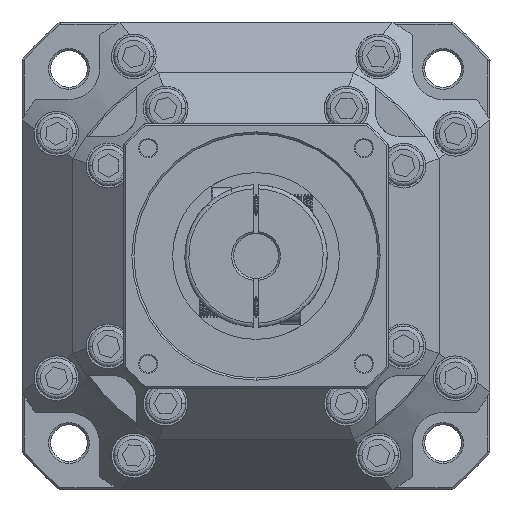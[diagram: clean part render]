
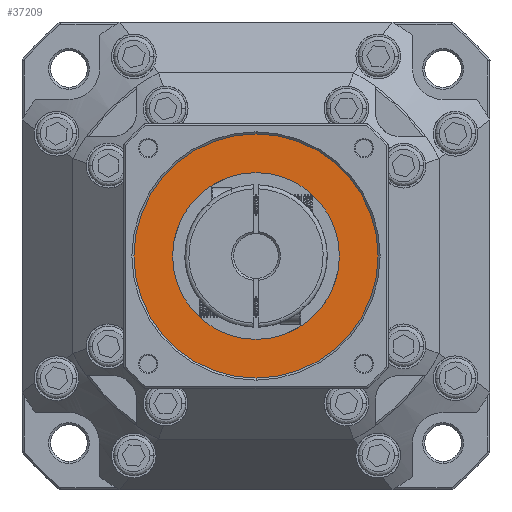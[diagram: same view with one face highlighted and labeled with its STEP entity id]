
A CAD part, front view. The second image highlights one B-rep face of the part: STEP entity #37209.
In plain terms, the highlighted planar face has unit normal (0, 1, 0).
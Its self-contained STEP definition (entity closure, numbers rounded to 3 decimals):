
#1240 = DIRECTION ( 'NONE',  ( 1., 0., 0. ) ) ;
#1306 = CARTESIAN_POINT ( 'NONE',  ( 0., -134.611, 0. ) ) ;
#3116 = CARTESIAN_POINT ( 'NONE',  ( 0., -134.611, 30. ) ) ;
#3349 = DIRECTION ( 'NONE',  ( 0., -1., 0. ) ) ;
#3427 = FACE_BOUND ( 'NONE', #37977, .T. ) ;
#7882 = VERTEX_POINT ( 'NONE', #3116 ) ;
#8398 = EDGE_CURVE ( 'NONE', #79903, #44071, #79397, .T. ) ;
#9768 = DIRECTION ( 'NONE',  ( 0., 0., -1. ) ) ;
#15743 = CIRCLE ( 'NONE', #104590, 30. ) ;
#17394 = ORIENTED_EDGE ( 'NONE', *, *, #32140, .T. ) ;
#20857 = VERTEX_POINT ( 'NONE', #70939 ) ;
#31250 = DIRECTION ( 'NONE',  ( 0., -1., 0. ) ) ;
#32140 = EDGE_CURVE ( 'NONE', #7882, #20857, #15743, .T. ) ;
#37209 = ADVANCED_FACE ( 'NONE', ( #3427, #67624 ), #42645, .F. ) ;
#37977 = EDGE_LOOP ( 'NONE', ( #82002, #44419 ) ) ;
#42645 = PLANE ( 'NONE',  #59402 ) ;
#44071 = VERTEX_POINT ( 'NONE', #70150 ) ;
#44092 = AXIS2_PLACEMENT_3D ( 'NONE', #53550, #3349, #61945 ) ;
#44419 = ORIENTED_EDGE ( 'NONE', *, *, #8398, .T. ) ;
#44462 = DIRECTION ( 'NONE',  ( 0., 1., 0. ) ) ;
#51431 = DIRECTION ( 'NONE',  ( 0., -1., 0. ) ) ;
#53550 = CARTESIAN_POINT ( 'NONE',  ( 0., -134.611, 0. ) ) ;
#59402 = AXIS2_PLACEMENT_3D ( 'NONE', #101529, #51431, #1240 ) ;
#59877 = DIRECTION ( 'NONE',  ( 0., 1., 0. ) ) ;
#61945 = DIRECTION ( 'NONE',  ( 0., 0., 1. ) ) ;
#67401 = EDGE_CURVE ( 'NONE', #20857, #7882, #71725, .T. ) ;
#67624 = FACE_OUTER_BOUND ( 'NONE', #74778, .T. ) ;
#69556 = CIRCLE ( 'NONE', #89689, 20.5 ) ;
#70150 = CARTESIAN_POINT ( 'NONE',  ( 0., -134.611, 20.5 ) ) ;
#70939 = CARTESIAN_POINT ( 'NONE',  ( 0., -134.611, -30. ) ) ;
#71725 = CIRCLE ( 'NONE', #81869, 30. ) ;
#74778 = EDGE_LOOP ( 'NONE', ( #100063, #17394 ) ) ;
#77702 = CARTESIAN_POINT ( 'NONE',  ( 0., -134.611, -20.5 ) ) ;
#79397 = CIRCLE ( 'NONE', #44092, 20.5 ) ;
#79568 = EDGE_CURVE ( 'NONE', #44071, #79903, #69556, .T. ) ;
#79903 = VERTEX_POINT ( 'NONE', #77702 ) ;
#81419 = CARTESIAN_POINT ( 'NONE',  ( 0., -134.611, 0. ) ) ;
#81869 = AXIS2_PLACEMENT_3D ( 'NONE', #94612, #44462, #103008 ) ;
#82002 = ORIENTED_EDGE ( 'NONE', *, *, #79568, .T. ) ;
#89689 = AXIS2_PLACEMENT_3D ( 'NONE', #81419, #31250, #89844 ) ;
#89844 = DIRECTION ( 'NONE',  ( 0., 0., 1. ) ) ;
#94612 = CARTESIAN_POINT ( 'NONE',  ( 0., -134.611, 0. ) ) ;
#100063 = ORIENTED_EDGE ( 'NONE', *, *, #67401, .T. ) ;
#101529 = CARTESIAN_POINT ( 'NONE',  ( -30.36, -134.611, -30.36 ) ) ;
#103008 = DIRECTION ( 'NONE',  ( 0., 0., -1. ) ) ;
#104590 = AXIS2_PLACEMENT_3D ( 'NONE', #1306, #59877, #9768 ) ;
